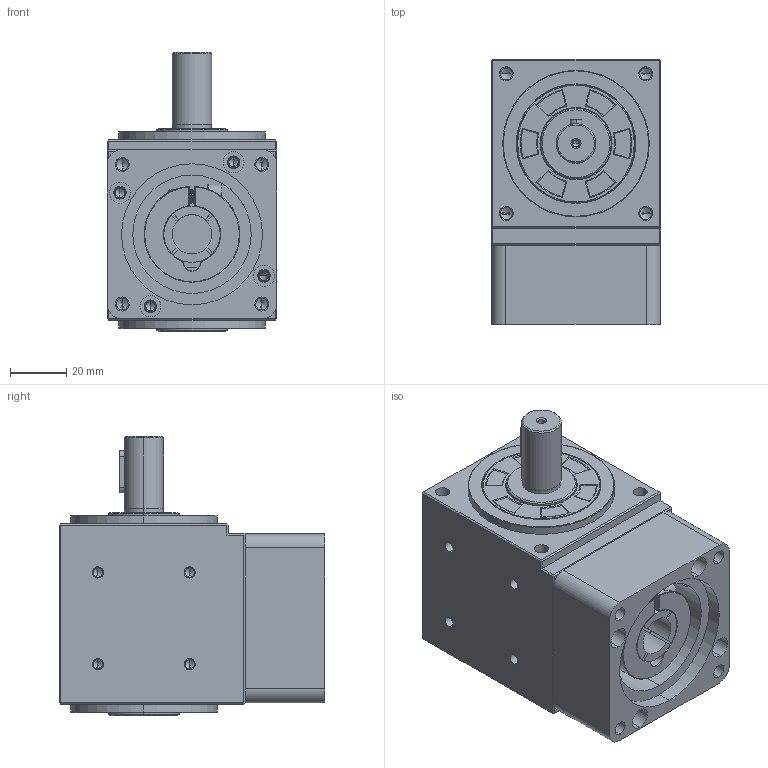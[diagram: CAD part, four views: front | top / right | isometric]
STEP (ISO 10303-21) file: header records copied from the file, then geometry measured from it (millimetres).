
FILE_DESCRIPTION (( 'STEP AP203' ), '1' );
FILE_NAME ('RS60-5(14-50-70-M5).STEP', '2022-03-11T11:40:18', ( '' ), ( '' ), 'SwSTEP 2.0', 'SolidWorks 2016', '' );
FILE_SCHEMA (( 'CONFIG_CONTROL_DESIGN' ));
Length unit declared in the file: millimetre
Products named in the file (8): R60-5-(14); R60-25x47x5; R60-5(50-70-M5); RS60-5(14-50-70-M5); RS60-(14x27-4x15); R60; R60-25x42x5; SN60-34x20x10.5-M5
Assembly tree (7 placements, depth 2):
  RS60-5(14-50-70-M5)
    R60
    R60-25x42x5
    R60-25x47x5
    R60-5(50-70-M5)
    RS60-(14x27-4x15)
    R60-5-(14)
    SN60-34x20x10.5-M5
Bounding box: 60 x 94.2 x 99 mm (x, y, z)
Volume: 246139.6 mm3; surface area: 80079.9 mm2
Topology: 8 solids, 8 shells, 673 faces, 1617 edges, 961 vertices
Faces by surface type: cylinder 316, cone 147, plane 130, torus 48, bspline 32
Entity records: 39243 total; most frequent: CARTESIAN_POINT 23579, ORIENTED_EDGE 3118, DIRECTION 3093, EDGE_CURVE 1559, AXIS2_PLACEMENT_3D 1220, VERTEX_POINT 961, EDGE_LOOP 760, ADVANCED_FACE 673
